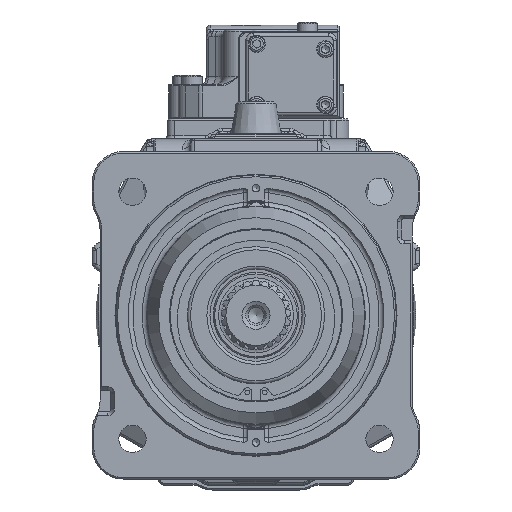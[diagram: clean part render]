
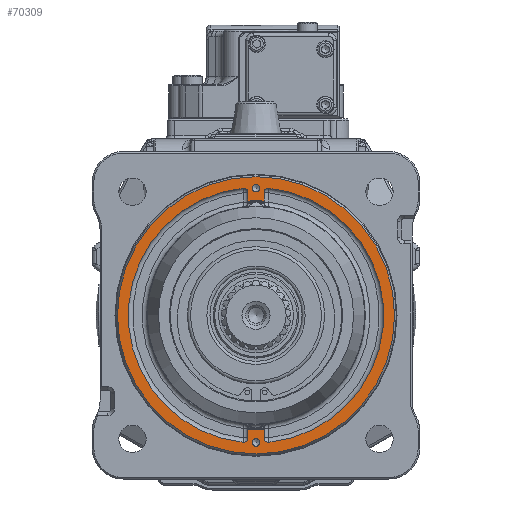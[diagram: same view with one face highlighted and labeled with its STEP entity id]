
A CAD part, front view. The second image highlights one B-rep face of the part: STEP entity #70309.
In plain terms, the highlighted planar face has unit normal (0, -1, 0).
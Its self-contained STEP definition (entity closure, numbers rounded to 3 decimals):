
#3999=FACE_BOUND('',#12116,.T.);
#4000=FACE_BOUND('',#12117,.T.);
#4001=FACE_BOUND('',#12118,.T.);
#4923=PLANE('',#76374);
#7952=FACE_OUTER_BOUND('',#12115,.T.);
#12115=EDGE_LOOP('',(#54794));
#12116=EDGE_LOOP('',(#54795));
#12117=EDGE_LOOP('',(#54796));
#12118=EDGE_LOOP('',(#54797,#54798,#54799,#54800,#54801,#54802,#54803,#54804,
#54805,#54806,#54807,#54808));
#16296=LINE('',#120431,#21354);
#16299=LINE('',#120485,#21357);
#16575=LINE('',#124386,#21633);
#16578=LINE('',#124463,#21636);
#21354=VECTOR('',#89267,5.374);
#21357=VECTOR('',#89298,5.374);
#21633=VECTOR('',#90202,5.374);
#21636=VECTOR('',#90227,5.374);
#26127=CIRCLE('',#76019,2.862);
#26129=CIRCLE('',#76022,81.862);
#26131=CIRCLE('',#76025,2.862);
#26253=CIRCLE('',#76346,2.862);
#26255=CIRCLE('',#76349,81.862);
#26257=CIRCLE('',#76352,2.862);
#26263=CIRCLE('',#76361,88.845);
#26269=CIRCLE('',#76373,73.4);
#26270=CIRCLE('',#76375,2.459);
#26271=CIRCLE('',#76376,2.459);
#26272=CIRCLE('',#76377,73.4);
#30667=VERTEX_POINT('',#120429);
#30668=VERTEX_POINT('',#120430);
#30671=VERTEX_POINT('',#120466);
#30672=VERTEX_POINT('',#120470);
#30673=VERTEX_POINT('',#120474);
#30677=VERTEX_POINT('',#120484);
#30994=VERTEX_POINT('',#124384);
#30995=VERTEX_POINT('',#124385);
#30997=VERTEX_POINT('',#124419);
#30998=VERTEX_POINT('',#124423);
#30999=VERTEX_POINT('',#124427);
#31002=VERTEX_POINT('',#124434);
#31008=VERTEX_POINT('',#124601);
#31010=VERTEX_POINT('',#124618);
#31011=VERTEX_POINT('',#124620);
#38814=EDGE_CURVE('',#30667,#30668,#16296,.T.);
#38819=EDGE_CURVE('',#30668,#30671,#26127,.T.);
#38821=EDGE_CURVE('',#30671,#30672,#26129,.T.);
#38823=EDGE_CURVE('',#30672,#30673,#26131,.T.);
#38828=EDGE_CURVE('',#30673,#30677,#16299,.T.);
#39400=EDGE_CURVE('',#30994,#30995,#16575,.T.);
#39404=EDGE_CURVE('',#30997,#30994,#26253,.T.);
#39406=EDGE_CURVE('',#30998,#30997,#26255,.T.);
#39408=EDGE_CURVE('',#30999,#30998,#26257,.T.);
#39412=EDGE_CURVE('',#31002,#30999,#16578,.T.);
#39424=EDGE_CURVE('',#31008,#31008,#26263,.T.);
#39430=EDGE_CURVE('',#30995,#30667,#26269,.T.);
#39431=EDGE_CURVE('',#31010,#31010,#26270,.T.);
#39432=EDGE_CURVE('',#31011,#31011,#26271,.T.);
#39433=EDGE_CURVE('',#30677,#31002,#26272,.T.);
#54794=ORIENTED_EDGE('',*,*,#39424,.T.);
#54795=ORIENTED_EDGE('',*,*,#39431,.T.);
#54796=ORIENTED_EDGE('',*,*,#39432,.T.);
#54797=ORIENTED_EDGE('',*,*,#39433,.F.);
#54798=ORIENTED_EDGE('',*,*,#38828,.F.);
#54799=ORIENTED_EDGE('',*,*,#38823,.F.);
#54800=ORIENTED_EDGE('',*,*,#38821,.F.);
#54801=ORIENTED_EDGE('',*,*,#38819,.F.);
#54802=ORIENTED_EDGE('',*,*,#38814,.F.);
#54803=ORIENTED_EDGE('',*,*,#39430,.F.);
#54804=ORIENTED_EDGE('',*,*,#39400,.F.);
#54805=ORIENTED_EDGE('',*,*,#39404,.F.);
#54806=ORIENTED_EDGE('',*,*,#39406,.F.);
#54807=ORIENTED_EDGE('',*,*,#39408,.F.);
#54808=ORIENTED_EDGE('',*,*,#39412,.F.);
#70309=ADVANCED_FACE('',(#7952,#3999,#4000,#4001),#4923,.F.);
#76019=AXIS2_PLACEMENT_3D('',#120467,#89275,#89276);
#76022=AXIS2_PLACEMENT_3D('',#120471,#89281,#89282);
#76025=AXIS2_PLACEMENT_3D('',#120475,#89287,#89288);
#76346=AXIS2_PLACEMENT_3D('',#124420,#90208,#90209);
#76349=AXIS2_PLACEMENT_3D('',#124424,#90214,#90215);
#76352=AXIS2_PLACEMENT_3D('',#124428,#90220,#90221);
#76361=AXIS2_PLACEMENT_3D('',#124603,#90241,#90242);
#76373=AXIS2_PLACEMENT_3D('',#124616,#90265,#90266);
#76374=AXIS2_PLACEMENT_3D('',#124617,#90267,#90268);
#76375=AXIS2_PLACEMENT_3D('',#124619,#90269,#90270);
#76376=AXIS2_PLACEMENT_3D('',#124621,#90271,#90272);
#76377=AXIS2_PLACEMENT_3D('',#124622,#90273,#90274);
#89267=DIRECTION('',(0.,0.,1.));
#89275=DIRECTION('center_axis',(0.,-1.,0.));
#89276=DIRECTION('ref_axis',(0.,0.,-1.));
#89281=DIRECTION('center_axis',(0.,-1.,0.));
#89282=DIRECTION('ref_axis',(0.,0.,-1.));
#89287=DIRECTION('center_axis',(0.,-1.,0.));
#89288=DIRECTION('ref_axis',(0.,0.,-1.));
#89298=DIRECTION('',(0.,0.,1.));
#90202=DIRECTION('',(0.,0.,-1.));
#90208=DIRECTION('center_axis',(0.,-1.,0.));
#90209=DIRECTION('ref_axis',(0.,0.,-1.));
#90214=DIRECTION('center_axis',(0.,-1.,0.));
#90215=DIRECTION('ref_axis',(0.,0.,-1.));
#90220=DIRECTION('center_axis',(0.,-1.,0.));
#90221=DIRECTION('ref_axis',(0.,0.,-1.));
#90227=DIRECTION('',(0.,0.,-1.));
#90241=DIRECTION('center_axis',(0.,-1.,0.));
#90242=DIRECTION('ref_axis',(0.,0.,1.));
#90265=DIRECTION('center_axis',(0.,-1.,0.));
#90266=DIRECTION('ref_axis',(0.,0.,1.));
#90267=DIRECTION('center_axis',(0.,1.,0.));
#90268=DIRECTION('ref_axis',(0.,0.,1.));
#90269=DIRECTION('center_axis',(0.,1.,0.));
#90270=DIRECTION('ref_axis',(1.,0.,0.));
#90271=DIRECTION('center_axis',(0.,1.,0.));
#90272=DIRECTION('ref_axis',(1.,0.,0.));
#90273=DIRECTION('center_axis',(0.,-1.,0.));
#90274=DIRECTION('ref_axis',(0.,0.,-1.));
#120429=CARTESIAN_POINT('',(-5.138,-234.1,-52.78));
#120430=CARTESIAN_POINT('',(-5.138,-234.1,-47.406));
#120431=CARTESIAN_POINT('',(-5.138,-234.1,-52.78));
#120466=CARTESIAN_POINT('',(-8.29,-234.1,-44.559));
#120467=CARTESIAN_POINT('Origin',(-8.,-234.1,-47.406));
#120470=CARTESIAN_POINT('',(-8.29,-234.1,-207.441));
#120471=CARTESIAN_POINT('Origin',(0.,-234.1,-126.));
#120474=CARTESIAN_POINT('',(-5.138,-234.1,-204.594));
#120475=CARTESIAN_POINT('Origin',(-8.,-234.1,-204.594));
#120484=CARTESIAN_POINT('',(-5.138,-234.1,-199.22));
#120485=CARTESIAN_POINT('',(-5.138,-234.1,-204.594));
#124384=CARTESIAN_POINT('',(5.138,-234.1,-47.406));
#124385=CARTESIAN_POINT('',(5.138,-234.1,-52.78));
#124386=CARTESIAN_POINT('',(5.138,-234.1,-47.406));
#124419=CARTESIAN_POINT('',(8.29,-234.1,-44.559));
#124420=CARTESIAN_POINT('Origin',(8.,-234.1,-47.406));
#124423=CARTESIAN_POINT('',(8.29,-234.1,-207.441));
#124424=CARTESIAN_POINT('Origin',(0.,-234.1,-126.));
#124427=CARTESIAN_POINT('',(5.138,-234.1,-204.594));
#124428=CARTESIAN_POINT('Origin',(8.,-234.1,-204.594));
#124434=CARTESIAN_POINT('',(5.138,-234.1,-199.22));
#124463=CARTESIAN_POINT('',(5.138,-234.1,-199.22));
#124601=CARTESIAN_POINT('',(0.,-234.1,-214.845));
#124603=CARTESIAN_POINT('Origin',(0.,-234.1,-126.));
#124616=CARTESIAN_POINT('Origin',(0.,-234.1,-126.));
#124617=CARTESIAN_POINT('Origin',(0.,-234.1,-45.077));
#124618=CARTESIAN_POINT('',(-2.459,-234.1,-207.5));
#124619=CARTESIAN_POINT('Origin',(0.,-234.1,-207.5));
#124620=CARTESIAN_POINT('',(-2.459,-234.1,-44.5));
#124621=CARTESIAN_POINT('Origin',(0.,-234.1,-44.5));
#124622=CARTESIAN_POINT('Origin',(0.,-234.1,-126.));
